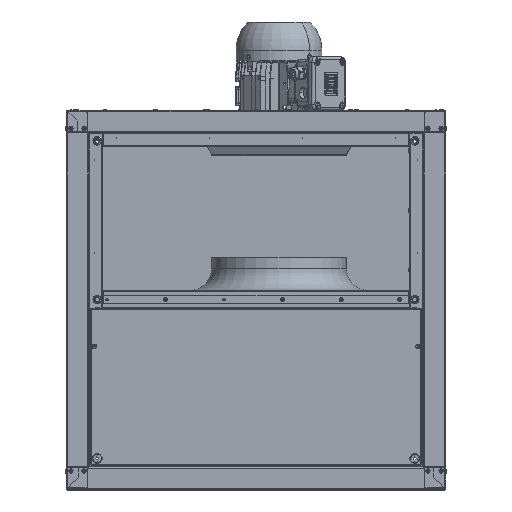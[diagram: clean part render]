
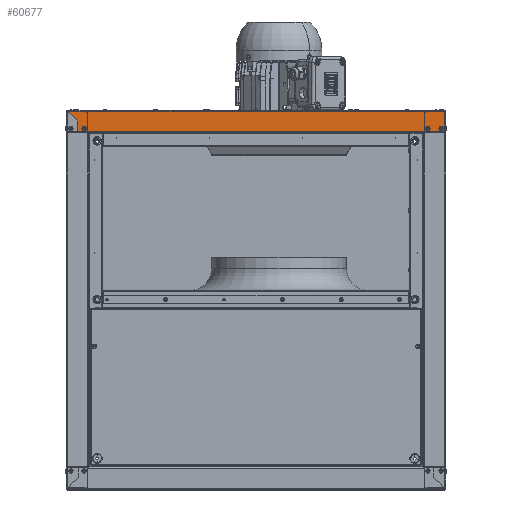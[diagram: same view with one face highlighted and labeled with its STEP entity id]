
A CAD part, top view. The second image highlights one B-rep face of the part: STEP entity #60677.
In plain terms, the highlighted planar face has unit normal (0, 0, 1).
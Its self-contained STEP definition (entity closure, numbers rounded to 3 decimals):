
#175 = EDGE_LOOP ( 'NONE', ( #71507, #53405 ) ) ;
#712 = CARTESIAN_POINT ( 'NONE',  ( 341.7, 318.1, 350. ) ) ;
#806 = DIRECTION ( 'NONE',  ( 0., 0., 1. ) ) ;
#1144 = EDGE_LOOP ( 'NONE', ( #1952, #82291 ) ) ;
#1319 = CARTESIAN_POINT ( 'NONE',  ( 341.7, 316., 350. ) ) ;
#1952 = ORIENTED_EDGE ( 'NONE', *, *, #39761, .F. ) ;
#3150 = CARTESIAN_POINT ( 'NONE',  ( 348.95, 310.7, 350. ) ) ;
#4142 = DIRECTION ( 'NONE',  ( 0., -1., 0. ) ) ;
#5362 = EDGE_CURVE ( 'NONE', #64495, #50297, #78705, .T. ) ;
#6225 = CARTESIAN_POINT ( 'NONE',  ( -329.1, 310.2, 350. ) ) ;
#6997 = CARTESIAN_POINT ( 'NONE',  ( 348.95, 350., 350. ) ) ;
#7344 = CARTESIAN_POINT ( 'NONE',  ( -310.05, 310.2, 350. ) ) ;
#8256 = LINE ( 'NONE', #23668, #79723 ) ;
#8288 = DIRECTION ( 'NONE',  ( 0., -1., 0. ) ) ;
#8743 = CARTESIAN_POINT ( 'NONE',  ( 348., 310.2, 350. ) ) ;
#9324 = VECTOR ( 'NONE', #39637, 1000. ) ;
#9809 = DIRECTION ( 'NONE',  ( 0., 0., 1. ) ) ;
#9997 = VERTEX_POINT ( 'NONE', #48520 ) ;
#10134 = DIRECTION ( 'NONE',  ( -1., 0., 0. ) ) ;
#10156 = VERTEX_POINT ( 'NONE', #43370 ) ;
#12182 = CARTESIAN_POINT ( 'NONE',  ( 317.2, 318.1, 350. ) ) ;
#14230 = VERTEX_POINT ( 'NONE', #12182 ) ;
#14255 = PLANE ( 'NONE',  #67968 ) ;
#14610 = CARTESIAN_POINT ( 'NONE',  ( 311.65, 310.2, 350. ) ) ;
#15641 = FACE_BOUND ( 'NONE', #175, .T. ) ;
#15734 = DIRECTION ( 'NONE',  ( 0., 1., 0. ) ) ;
#15894 = VECTOR ( 'NONE', #16934, 1000. ) ;
#16275 = DIRECTION ( 'NONE',  ( 0., -1., 0. ) ) ;
#16934 = DIRECTION ( 'NONE',  ( 1., 0., 0. ) ) ;
#17037 = DIRECTION ( 'NONE',  ( 0., 1., 0. ) ) ;
#17843 = FACE_BOUND ( 'NONE', #1144, .T. ) ;
#18081 = ORIENTED_EDGE ( 'NONE', *, *, #59321, .T. ) ;
#19354 = VERTEX_POINT ( 'NONE', #44276 ) ;
#19667 = EDGE_CURVE ( 'NONE', #50225, #10156, #82430, .T. ) ;
#19733 = CARTESIAN_POINT ( 'NONE',  ( -317.2, 313.9, 350. ) ) ;
#21157 = ORIENTED_EDGE ( 'NONE', *, *, #75587, .T. ) ;
#21199 = DIRECTION ( 'NONE',  ( 0., 1., 0. ) ) ;
#21392 = EDGE_CURVE ( 'NONE', #36397, #80581, #22717, .T. ) ;
#21437 = AXIS2_PLACEMENT_3D ( 'NONE', #87079, #45548, #4142 ) ;
#22036 = CARTESIAN_POINT ( 'NONE',  ( 317.2, 316., 350. ) ) ;
#22717 = LINE ( 'NONE', #23518, #75758 ) ;
#23518 = CARTESIAN_POINT ( 'NONE',  ( -348.45, 349.1, 350. ) ) ;
#23668 = CARTESIAN_POINT ( 'NONE',  ( -310.05, 310.7, 350. ) ) ;
#24077 = CARTESIAN_POINT ( 'NONE',  ( -310.05, 310.7, 350. ) ) ;
#26007 = DIRECTION ( 'NONE',  ( 0., 0., 1. ) ) ;
#26037 = EDGE_LOOP ( 'NONE', ( #58547, #69397, #29855, #79829, #61647, #21157, #42519, #28154, #18081 ) ) ;
#27342 = EDGE_CURVE ( 'NONE', #9997, #14230, #37426, .T. ) ;
#28154 = ORIENTED_EDGE ( 'NONE', *, *, #69488, .T. ) ;
#28419 = LINE ( 'NONE', #70182, #44632 ) ;
#28801 = DIRECTION ( 'NONE',  ( 0., -1., 0. ) ) ;
#28995 = DIRECTION ( 'NONE',  ( 0., -1., 0. ) ) ;
#29224 = CARTESIAN_POINT ( 'NONE',  ( -317.2, 318.1, 350. ) ) ;
#29855 = ORIENTED_EDGE ( 'NONE', *, *, #21392, .F. ) ;
#30543 = CARTESIAN_POINT ( 'NONE',  ( 311.65, 310.2, 350. ) ) ;
#32559 = EDGE_CURVE ( 'NONE', #50297, #64495, #75595, .T. ) ;
#33718 = EDGE_CURVE ( 'NONE', #36397, #50225, #65721, .T. ) ;
#34981 = AXIS2_PLACEMENT_3D ( 'NONE', #22036, #70388, #28995 ) ;
#35653 = EDGE_CURVE ( 'NONE', #14230, #9997, #52408, .T. ) ;
#35918 = EDGE_LOOP ( 'NONE', ( #49181, #56520 ) ) ;
#36397 = VERTEX_POINT ( 'NONE', #65650 ) ;
#37158 = VERTEX_POINT ( 'NONE', #24077 ) ;
#37426 = CIRCLE ( 'NONE', #64494, 2.1 ) ;
#39637 = DIRECTION ( 'NONE',  ( -1., 0., 0. ) ) ;
#39761 = EDGE_CURVE ( 'NONE', #61264, #67694, #54620, .T. ) ;
#42231 = CARTESIAN_POINT ( 'NONE',  ( 317.2, 316., 350. ) ) ;
#42519 = ORIENTED_EDGE ( 'NONE', *, *, #64283, .F. ) ;
#42960 = VECTOR ( 'NONE', #61518, 1000. ) ;
#43370 = CARTESIAN_POINT ( 'NONE',  ( -310.05, 310.2, 350. ) ) ;
#44276 = CARTESIAN_POINT ( 'NONE',  ( 348., 348., 350. ) ) ;
#44344 = DIRECTION ( 'NONE',  ( -0.707, 0.707, 0. ) ) ;
#44599 = VERTEX_POINT ( 'NONE', #14610 ) ;
#44632 = VECTOR ( 'NONE', #28801, 1000. ) ;
#44948 = EDGE_CURVE ( 'NONE', #19354, #80581, #66673, .T. ) ;
#45548 = DIRECTION ( 'NONE',  ( 0., 0., 1. ) ) ;
#48520 = CARTESIAN_POINT ( 'NONE',  ( 317.2, 313.9, 350. ) ) ;
#49181 = ORIENTED_EDGE ( 'NONE', *, *, #27342, .F. ) ;
#49209 = DIRECTION ( 'NONE',  ( 0., -1., 0. ) ) ;
#49697 = DIRECTION ( 'NONE',  ( 0., 0., 1. ) ) ;
#50225 = VERTEX_POINT ( 'NONE', #63107 ) ;
#50297 = VERTEX_POINT ( 'NONE', #29224 ) ;
#51272 = CARTESIAN_POINT ( 'NONE',  ( 341.7, 316., 350. ) ) ;
#52408 = CIRCLE ( 'NONE', #34981, 2.1 ) ;
#52707 = LINE ( 'NONE', #30543, #15894 ) ;
#53255 = CARTESIAN_POINT ( 'NONE',  ( 348.95, 348., 350. ) ) ;
#53405 = ORIENTED_EDGE ( 'NONE', *, *, #32559, .F. ) ;
#54599 = FACE_OUTER_BOUND ( 'NONE', #26037, .T. ) ;
#54620 = CIRCLE ( 'NONE', #55482, 2.1 ) ;
#54876 = LINE ( 'NONE', #8743, #89527 ) ;
#55482 = AXIS2_PLACEMENT_3D ( 'NONE', #1319, #49697, #8288 ) ;
#55638 = AXIS2_PLACEMENT_3D ( 'NONE', #72593, #26007, #16275 ) ;
#56015 = DIRECTION ( 'NONE',  ( 1., 0., 0. ) ) ;
#56520 = ORIENTED_EDGE ( 'NONE', *, *, #35653, .F. ) ;
#58191 = DIRECTION ( 'NONE',  ( 0., -1., 0. ) ) ;
#58547 = ORIENTED_EDGE ( 'NONE', *, *, #66827, .T. ) ;
#59321 = EDGE_CURVE ( 'NONE', #44599, #88785, #52707, .T. ) ;
#60677 = ADVANCED_FACE ( 'NONE', ( #15641, #87124, #17843, #54599 ), #14255, .F. ) ;
#61264 = VERTEX_POINT ( 'NONE', #62126 ) ;
#61518 = DIRECTION ( 'NONE',  ( 0., -1., 0. ) ) ;
#61647 = ORIENTED_EDGE ( 'NONE', *, *, #19667, .T. ) ;
#62126 = CARTESIAN_POINT ( 'NONE',  ( 341.7, 313.9, 350. ) ) ;
#62521 = VERTEX_POINT ( 'NONE', #83330 ) ;
#62610 = DIRECTION ( 'NONE',  ( 0., 0., -1. ) ) ;
#63107 = CARTESIAN_POINT ( 'NONE',  ( -329.1, 310.2, 350. ) ) ;
#64235 = EDGE_CURVE ( 'NONE', #67694, #61264, #70269, .T. ) ;
#64283 = EDGE_CURVE ( 'NONE', #62521, #37158, #88762, .T. ) ;
#64494 = AXIS2_PLACEMENT_3D ( 'NONE', #42231, #806, #49209 ) ;
#64495 = VERTEX_POINT ( 'NONE', #19733 ) ;
#65222 = CARTESIAN_POINT ( 'NONE',  ( 348., 310.2, 350. ) ) ;
#65650 = CARTESIAN_POINT ( 'NONE',  ( -329.1, 329.75, 350. ) ) ;
#65721 = LINE ( 'NONE', #6225, #42960 ) ;
#66673 = LINE ( 'NONE', #53255, #9324 ) ;
#66827 = EDGE_CURVE ( 'NONE', #88785, #19354, #54876, .T. ) ;
#67694 = VERTEX_POINT ( 'NONE', #712 ) ;
#67968 = AXIS2_PLACEMENT_3D ( 'NONE', #6997, #62610, #21199 ) ;
#69397 = ORIENTED_EDGE ( 'NONE', *, *, #44948, .T. ) ;
#69488 = EDGE_CURVE ( 'NONE', #62521, #44599, #28419, .T. ) ;
#70182 = CARTESIAN_POINT ( 'NONE',  ( 311.65, 310.7, 350. ) ) ;
#70269 = CIRCLE ( 'NONE', #75183, 2.1 ) ;
#70388 = DIRECTION ( 'NONE',  ( 0., 0., 1. ) ) ;
#71507 = ORIENTED_EDGE ( 'NONE', *, *, #5362, .F. ) ;
#72593 = CARTESIAN_POINT ( 'NONE',  ( -317.2, 316., 350. ) ) ;
#75183 = AXIS2_PLACEMENT_3D ( 'NONE', #51272, #9809, #58191 ) ;
#75587 = EDGE_CURVE ( 'NONE', #10156, #37158, #8256, .T. ) ;
#75595 = CIRCLE ( 'NONE', #21437, 2.1 ) ;
#75758 = VECTOR ( 'NONE', #44344, 1000. ) ;
#78705 = CIRCLE ( 'NONE', #55638, 2.1 ) ;
#79723 = VECTOR ( 'NONE', #17037, 1000. ) ;
#79829 = ORIENTED_EDGE ( 'NONE', *, *, #33718, .T. ) ;
#80266 = VECTOR ( 'NONE', #56015, 1000. ) ;
#80581 = VERTEX_POINT ( 'NONE', #85516 ) ;
#82291 = ORIENTED_EDGE ( 'NONE', *, *, #64235, .F. ) ;
#82430 = LINE ( 'NONE', #7344, #80266 ) ;
#83330 = CARTESIAN_POINT ( 'NONE',  ( 311.65, 310.7, 350. ) ) ;
#85516 = CARTESIAN_POINT ( 'NONE',  ( -347.35, 348., 350. ) ) ;
#86598 = VECTOR ( 'NONE', #10134, 1000. ) ;
#87079 = CARTESIAN_POINT ( 'NONE',  ( -317.2, 316., 350. ) ) ;
#87124 = FACE_BOUND ( 'NONE', #35918, .T. ) ;
#88762 = LINE ( 'NONE', #3150, #86598 ) ;
#88785 = VERTEX_POINT ( 'NONE', #65222 ) ;
#89527 = VECTOR ( 'NONE', #15734, 1000. ) ;
